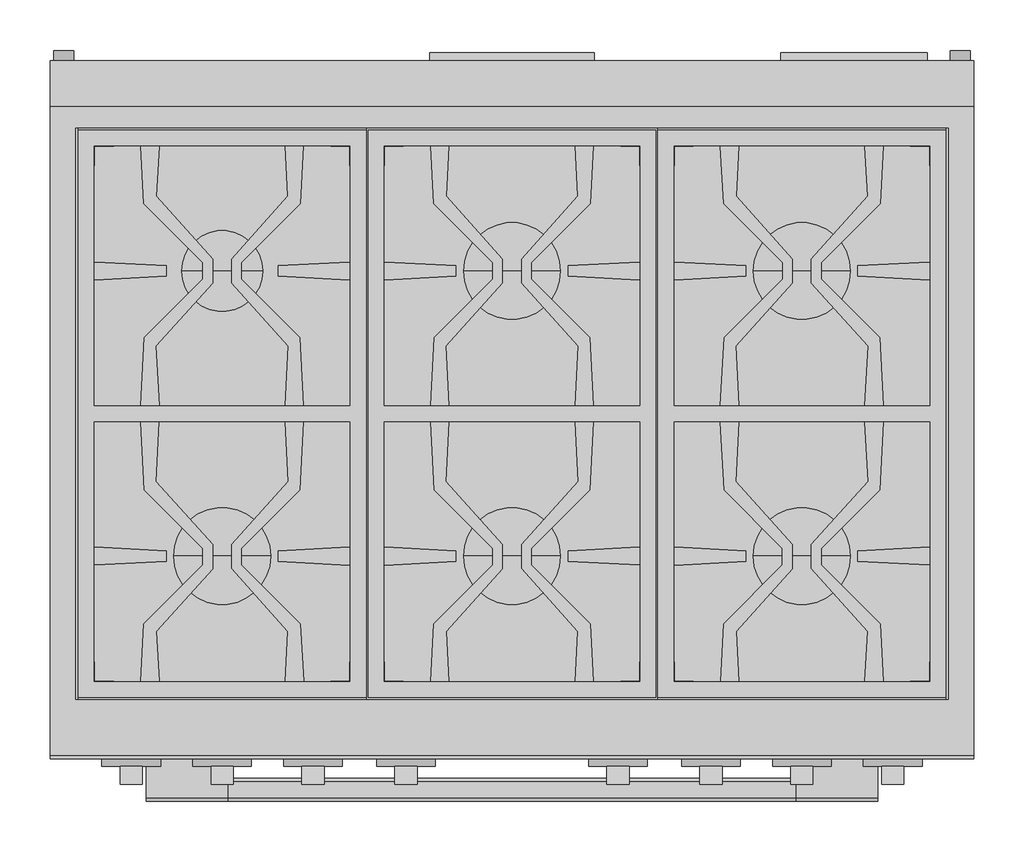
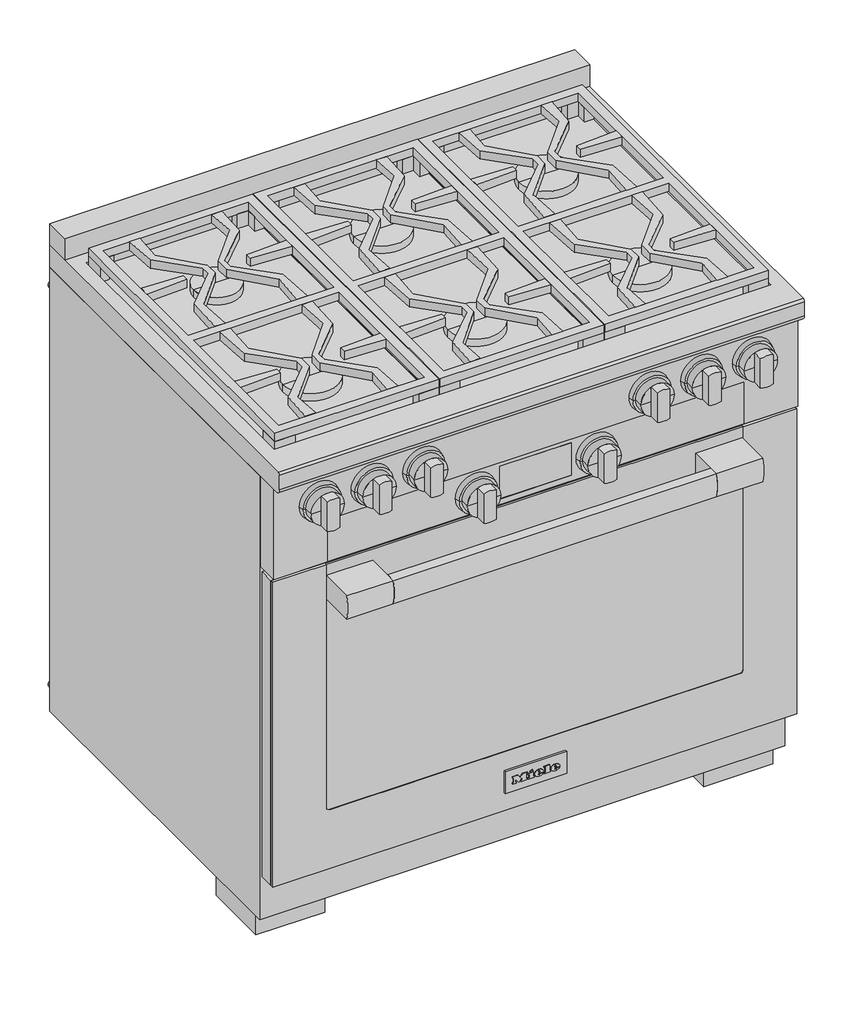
# Not in any storey: 1 proxy.
"""IFC4 building model written with IfcOpenShell, lengths in millimetres."""

from ifc_helpers import new_model, si_unit, origin, place, context, project, spatial, transform, mapped, element, save
from components import specialty_equipment_c9cf899d, specialty_equipment_bb1c697a

model = new_model("IFC4")

# Units and contexts
model_context = context("Model", 3, world=origin())
ifc_project = project(units=[si_unit("LENGTHUNIT", "METRE", prefix="MILLI")], contexts=[model_context])

# Site, building
site = spatial("IfcSite", under=ifc_project)
building = spatial("IfcBuilding", under=site)

# Proxy
placement = place(None, origin())
specialty_equipment_shape = specialty_equipment_c9cf899d(model_context)
specialty_equipment_2_shape = specialty_equipment_bb1c697a(model_context)
element("IfcBuildingElementProxy", 1, Name="11816580_BR_HR1134-3LP_EDST-CLS : 25113482_BR_11816580_HR1134-3LP_EDST-CLS", ObjectType="11816580_BR_HR1134-3LP_EDST-CLS : 25113482_BR_11816580_HR1134-3LP_EDST-CLS", at=placement, inside=building, context=model_context, shape_type="MappedRepresentation", body=[
    mapped(specialty_equipment_shape, transform((0.0, 0.0, 0.0), x_axis=(1.0, 0.0, 0.0), y_axis=(0.0, 1.0, 0.0), z_axis=(0.0, 0.0, 1.0))),
    mapped(specialty_equipment_2_shape, transform((0.0, 0.0, 0.0), x_axis=(1.0, 0.0, 0.0), y_axis=(0.0, 1.0, 0.0), z_axis=(0.0, 0.0, 1.0))),
])

save(model, "model.ifc")
